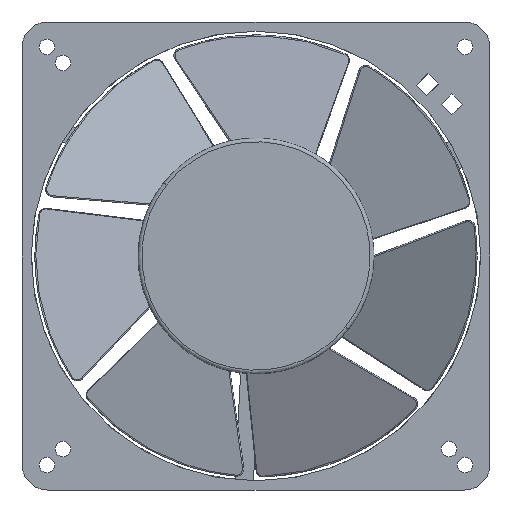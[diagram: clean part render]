
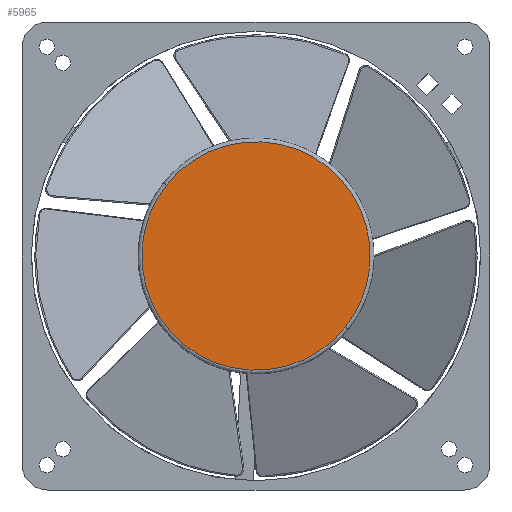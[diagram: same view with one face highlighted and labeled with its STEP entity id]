
A CAD part, front view. The second image highlights one B-rep face of the part: STEP entity #5965.
In plain terms, the highlighted planar face has unit normal (0, -1, 0).
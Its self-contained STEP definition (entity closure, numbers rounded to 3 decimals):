
#31 = CARTESIAN_POINT ( 'NONE',  ( -12.235, -38., 28.537 ) ) ;
#103 = CARTESIAN_POINT ( 'NONE',  ( -9.379, -38., 29.599 ) ) ;
#177 = CARTESIAN_POINT ( 'NONE',  ( -3.471, -38., 30.854 ) ) ;
#855 = CARTESIAN_POINT ( 'NONE',  ( -25.602, -38., -17.568 ) ) ;
#937 = CARTESIAN_POINT ( 'NONE',  ( 14.974, -38., -27.201 ) ) ;
#1071 = CARTESIAN_POINT ( 'NONE',  ( 24.293, -38., -19.258 ) ) ;
#1220 = CARTESIAN_POINT ( 'NONE',  ( -5.589, -38., -30.543 ) ) ;
#1298 = CARTESIAN_POINT ( 'NONE',  ( 30.372, -38., 6.448 ) ) ;
#1379 = CARTESIAN_POINT ( 'NONE',  ( 30.854, -38., 3.471 ) ) ;
#1450 = CARTESIAN_POINT ( 'NONE',  ( 11.44, -38., 28.866 ) ) ;
#1674 = VERTEX_POINT ( 'NONE', #1071 ) ;
#1968 = B_SPLINE_CURVE_WITH_KNOTS ( 'NONE', 3,
 ( #8007, #3144, #4842, #13196, #7200, #937, #12757, #9254, #13931, #2041, #4323, #11945, #1220, #6839, #6019, #11594, #6676, #5642, #10269, #10785, #855, #4467, #15174, #9620, #3663, #8450, #15032, #3299, #8088, #9109, #2120, #7933, #6915, #5710, #10500 ),
 .UNSPECIFIED., .F., .F.,
 ( 4, 1, 1, 1, 1, 1, 1, 1, 1, 1, 1, 1, 1, 1, 1, 1, 1, 1, 1, 1, 1, 1, 1, 1, 1, 1, 1, 1, 1, 1, 1, 1, 4 ),
 ( 0., 0.033, 0.064, 0.095, 0.126, 0.158, 0.189, 0.22, 0.251, 0.282, 0.313, 0.344, 0.375, 0.407, 0.438, 0.469, 0.5, 0.533, 0.564, 0.595, 0.626, 0.658, 0.689, 0.72, 0.751, 0.782, 0.813, 0.844, 0.875, 0.907, 0.938, 0.969, 1. ),
 .UNSPECIFIED. ) ;
#2041 = CARTESIAN_POINT ( 'NONE',  ( 3.471, -38., -30.854 ) ) ;
#2120 = CARTESIAN_POINT ( 'NONE',  ( -28.866, -38., 11.44 ) ) ;
#2212 = CARTESIAN_POINT ( 'NONE',  ( -24.293, -38., 19.258 ) ) ;
#2405 = CARTESIAN_POINT ( 'NONE',  ( -22.26, -38., 21.651 ) ) ;
#2478 = CARTESIAN_POINT ( 'NONE',  ( -17.568, -38., 25.602 ) ) ;
#2563 = CARTESIAN_POINT ( 'NONE',  ( 14.214, -38., 27.605 ) ) ;
#2639 = CARTESIAN_POINT ( 'NONE',  ( 21.651, -38., 22.26 ) ) ;
#3144 = CARTESIAN_POINT ( 'NONE',  ( 23.633, -38., -20.09 ) ) ;
#3299 = CARTESIAN_POINT ( 'NONE',  ( -30.943, -38., 2.568 ) ) ;
#3663 = CARTESIAN_POINT ( 'NONE',  ( -30.372, -38., -6.448 ) ) ;
#3704 = EDGE_LOOP ( 'NONE', ( #6905, #11751 ) ) ;
#3821 = CARTESIAN_POINT ( 'NONE',  ( 27.605, -38., -14.214 ) ) ;
#4323 = CARTESIAN_POINT ( 'NONE',  ( 0.462, -38., -31.046 ) ) ;
#4467 = CARTESIAN_POINT ( 'NONE',  ( -27.201, -38., -14.974 ) ) ;
#4842 = CARTESIAN_POINT ( 'NONE',  ( 22.26, -38., -21.651 ) ) ;
#4909 = CARTESIAN_POINT ( 'NONE',  ( 25.602, -38., 17.568 ) ) ;
#4979 = CARTESIAN_POINT ( 'NONE',  ( 2.568, -38., 30.943 ) ) ;
#5300 = EDGE_CURVE ( 'NONE', #7162, #1674, #12305, .T. ) ;
#5422 = PLANE ( 'NONE',  #14249 ) ;
#5642 = CARTESIAN_POINT ( 'NONE',  ( -19.34, -38., -24.293 ) ) ;
#5710 = CARTESIAN_POINT ( 'NONE',  ( -24.913, -38., 18.475 ) ) ;
#5965 = ADVANCED_FACE ( 'NONE', ( #12855 ), #5422, .T. ) ;
#6019 = CARTESIAN_POINT ( 'NONE',  ( -11.44, -38., -28.866 ) ) ;
#6169 = CARTESIAN_POINT ( 'NONE',  ( 31.046, -38., 0.462 ) ) ;
#6243 = CARTESIAN_POINT ( 'NONE',  ( 29.599, -38., 9.379 ) ) ;
#6676 = CARTESIAN_POINT ( 'NONE',  ( -16.838, -38., -26.087 ) ) ;
#6839 = CARTESIAN_POINT ( 'NONE',  ( -8.556, -38., -29.848 ) ) ;
#6856 = CARTESIAN_POINT ( 'NONE',  ( -31.62, -38., 31.62 ) ) ;
#6905 = ORIENTED_EDGE ( 'NONE', *, *, #9486, .F. ) ;
#6915 = CARTESIAN_POINT ( 'NONE',  ( -26.087, -38., 16.838 ) ) ;
#7162 = VERTEX_POINT ( 'NONE', #2212 ) ;
#7196 = CARTESIAN_POINT ( 'NONE',  ( -19.992, -38., 23.757 ) ) ;
#7200 = CARTESIAN_POINT ( 'NONE',  ( 17.568, -38., -25.602 ) ) ;
#7274 = CARTESIAN_POINT ( 'NONE',  ( 8.556, -38., 29.848 ) ) ;
#7795 = DIRECTION ( 'NONE',  ( 0., -1., 0. ) ) ;
#7933 = CARTESIAN_POINT ( 'NONE',  ( -27.605, -38., 14.214 ) ) ;
#7950 = DIRECTION ( 'NONE',  ( 0., 0., -1. ) ) ;
#8007 = CARTESIAN_POINT ( 'NONE',  ( 24.293, -38., -19.258 ) ) ;
#8088 = CARTESIAN_POINT ( 'NONE',  ( -30.543, -38., 5.589 ) ) ;
#8373 = CARTESIAN_POINT ( 'NONE',  ( 26.087, -38., -16.838 ) ) ;
#8450 = CARTESIAN_POINT ( 'NONE',  ( -30.854, -38., -3.471 ) ) ;
#8604 = CARTESIAN_POINT ( 'NONE',  ( 24.913, -38., -18.475 ) ) ;
#9109 = CARTESIAN_POINT ( 'NONE',  ( -29.848, -38., 8.556 ) ) ;
#9254 = CARTESIAN_POINT ( 'NONE',  ( 9.379, -38., -29.599 ) ) ;
#9486 = EDGE_CURVE ( 'NONE', #1674, #7162, #1968, .T. ) ;
#9620 = CARTESIAN_POINT ( 'NONE',  ( -29.599, -38., -9.379 ) ) ;
#9690 = CARTESIAN_POINT ( 'NONE',  ( 19.34, -38., 24.293 ) ) ;
#9767 = CARTESIAN_POINT ( 'NONE',  ( -14.974, -38., 27.201 ) ) ;
#10269 = CARTESIAN_POINT ( 'NONE',  ( -21.651, -38., -22.26 ) ) ;
#10500 = CARTESIAN_POINT ( 'NONE',  ( -24.293, -38., 19.258 ) ) ;
#10785 = CARTESIAN_POINT ( 'NONE',  ( -23.757, -38., -19.992 ) ) ;
#10937 = CARTESIAN_POINT ( 'NONE',  ( 30.943, -38., -2.568 ) ) ;
#11013 = CARTESIAN_POINT ( 'NONE',  ( 28.866, -38., -11.44 ) ) ;
#11594 = CARTESIAN_POINT ( 'NONE',  ( -14.214, -38., -27.605 ) ) ;
#11751 = ORIENTED_EDGE ( 'NONE', *, *, #5300, .F. ) ;
#11941 = CARTESIAN_POINT ( 'NONE',  ( 5.589, -38., 30.543 ) ) ;
#11945 = CARTESIAN_POINT ( 'NONE',  ( -2.568, -38., -30.943 ) ) ;
#12027 = CARTESIAN_POINT ( 'NONE',  ( 27.201, -38., 14.974 ) ) ;
#12107 = CARTESIAN_POINT ( 'NONE',  ( 29.848, -38., -8.556 ) ) ;
#12180 = CARTESIAN_POINT ( 'NONE',  ( 28.537, -38., 12.235 ) ) ;
#12305 = B_SPLINE_CURVE_WITH_KNOTS ( 'NONE', 3,
 ( #14527, #13273, #2405, #7196, #2478, #9767, #31, #103, #13047, #177, #14295, #4979, #11941, #7274, #1450, #2563, #15461, #9690, #2639, #14373, #4909, #12027, #12180, #6243, #1298, #1379, #6169, #10937, #14445, #12107, #11013, #3821, #8373, #8604, #13348 ),
 .UNSPECIFIED., .F., .F.,
 ( 4, 1, 1, 1, 1, 1, 1, 1, 1, 1, 1, 1, 1, 1, 1, 1, 1, 1, 1, 1, 1, 1, 1, 1, 1, 1, 1, 1, 1, 1, 1, 1, 4 ),
 ( 0., 0.033, 0.064, 0.095, 0.126, 0.158, 0.189, 0.22, 0.251, 0.282, 0.313, 0.344, 0.375, 0.407, 0.438, 0.469, 0.5, 0.533, 0.564, 0.595, 0.626, 0.658, 0.689, 0.72, 0.751, 0.782, 0.813, 0.844, 0.875, 0.907, 0.938, 0.969, 1. ),
 .UNSPECIFIED. ) ;
#12757 = CARTESIAN_POINT ( 'NONE',  ( 12.235, -38., -28.537 ) ) ;
#12855 = FACE_OUTER_BOUND ( 'NONE', #3704, .T. ) ;
#13047 = CARTESIAN_POINT ( 'NONE',  ( -6.448, -38., 30.372 ) ) ;
#13196 = CARTESIAN_POINT ( 'NONE',  ( 19.992, -38., -23.757 ) ) ;
#13273 = CARTESIAN_POINT ( 'NONE',  ( -23.633, -38., 20.09 ) ) ;
#13348 = CARTESIAN_POINT ( 'NONE',  ( 24.293, -38., -19.258 ) ) ;
#13931 = CARTESIAN_POINT ( 'NONE',  ( 6.448, -38., -30.372 ) ) ;
#14249 = AXIS2_PLACEMENT_3D ( 'NONE', #6856, #7795, #7950 ) ;
#14295 = CARTESIAN_POINT ( 'NONE',  ( -0.462, -38., 31.046 ) ) ;
#14373 = CARTESIAN_POINT ( 'NONE',  ( 23.757, -38., 19.992 ) ) ;
#14445 = CARTESIAN_POINT ( 'NONE',  ( 30.543, -38., -5.589 ) ) ;
#14527 = CARTESIAN_POINT ( 'NONE',  ( -24.293, -38., 19.258 ) ) ;
#15032 = CARTESIAN_POINT ( 'NONE',  ( -31.046, -38., -0.462 ) ) ;
#15174 = CARTESIAN_POINT ( 'NONE',  ( -28.537, -38., -12.235 ) ) ;
#15461 = CARTESIAN_POINT ( 'NONE',  ( 16.838, -38., 26.087 ) ) ;
